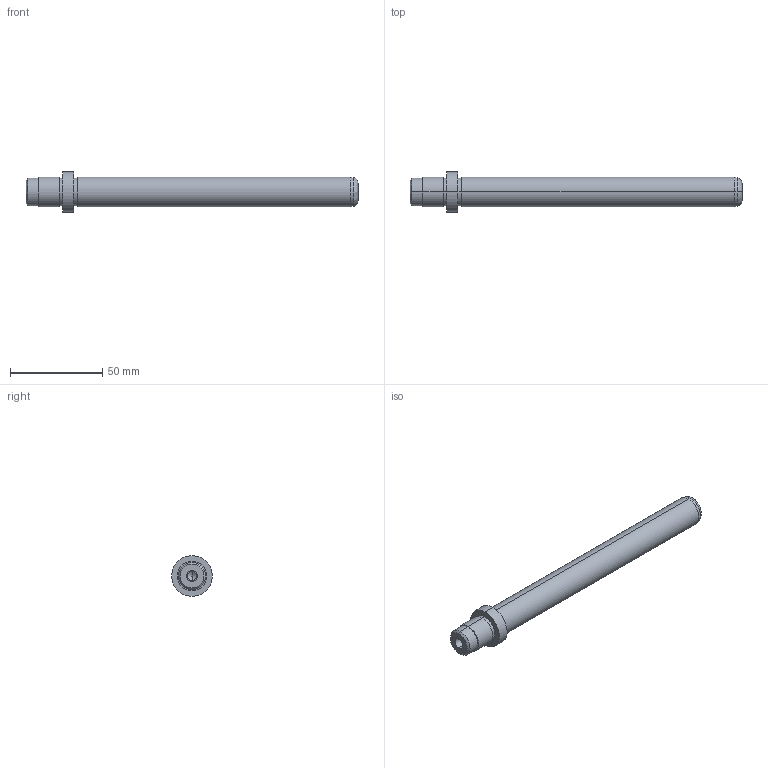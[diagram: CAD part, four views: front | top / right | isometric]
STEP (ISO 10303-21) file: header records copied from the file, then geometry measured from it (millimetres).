
FILE_DESCRIPTION( ( 'STEP AP203' ), '1' );
FILE_NAME( 'D:/Delta 3 D/D00/D00 - 16x160x20.step', '2003-01-02T06:34:40', ( ' ' ), ( ' ' ), 'XStep 1.0', ' ', ' ' );
FILE_SCHEMA( ( 'CONFIG_CONTROL_DESIGN' ) );
Length unit declared in the file: metre
Products named in the file (1): 1
Bounding box: 180 x 22 x 22 mm (x, y, z)
Volume: 35813.3 mm3; surface area: 10762.7 mm2
Topology: 1 solids, 1 shells, 39 faces, 79 edges, 48 vertices
Faces by surface type: revolution 28, bspline 11
Entity records: 1137 total; most frequent: CARTESIAN_POINT 277, DIRECTION 154, ORIENTED_EDGE 152, EDGE_CURVE 76, AXIS2_PLACEMENT_3D 49, EDGE_LOOP 48, VERTEX_POINT 48, CIRCLE 48
